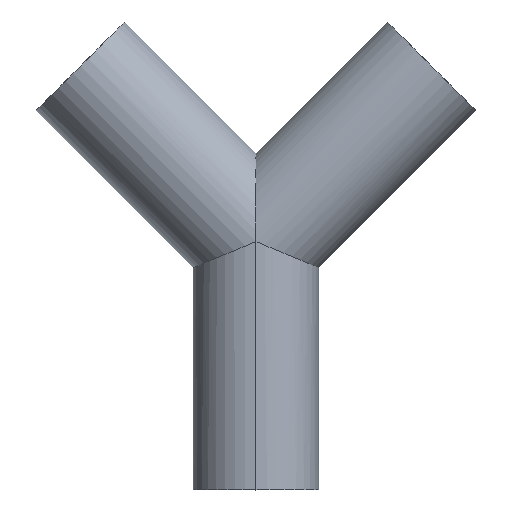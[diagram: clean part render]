
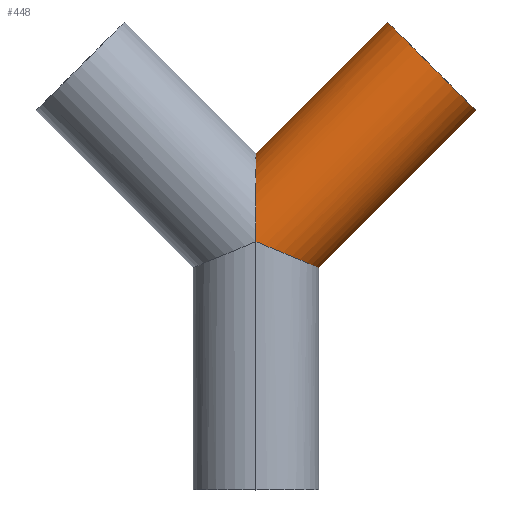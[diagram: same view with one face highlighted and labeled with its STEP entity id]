
A CAD part, top view. The second image highlights one B-rep face of the part: STEP entity #448.
In plain terms, the highlighted cylindrical face has radius 76.2 mm (diameter 152.4 mm), a partial arc.
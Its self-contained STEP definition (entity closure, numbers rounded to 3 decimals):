
#9 = CARTESIAN_POINT ( 'NONE',  ( 76.2, -31.563, 44.637 ) ) ;
#13 = CARTESIAN_POINT ( 'NONE',  ( 0., 0., 76.2 ) ) ;
#21 = CARTESIAN_POINT ( 'NONE',  ( 0., 107.763, 0. ) ) ;
#52 = VERTEX_POINT ( 'NONE', #79 ) ;
#55 = DIRECTION ( 'NONE',  ( 0.707, 0.707, 0. ) ) ;
#66 = EDGE_CURVE ( 'NONE', #206, #421, #152, .T. ) ;
#76 = CIRCLE ( 'NONE', #188, 76.2 ) ;
#79 = CARTESIAN_POINT ( 'NONE',  ( 76.2, -31.563, 0. ) ) ;
#83 = DIRECTION ( 'NONE',  ( 0.707, 0.707, 0. ) ) ;
#111 = CARTESIAN_POINT ( 'NONE',  ( 0., 107.763, 0. ) ) ;
#114 = CARTESIAN_POINT ( 'NONE',  ( 0., 0., 76.2 ) ) ;
#123 = CARTESIAN_POINT ( 'NONE',  ( 0., 0., 76.2 ) ) ;
#126 = CARTESIAN_POINT ( 'NONE',  ( -206.282, -98.518, 0. ) ) ;
#133 = EDGE_LOOP ( 'NONE', ( #334, #266, #213, #240, #168 ) ) ;
#152 =( BOUNDED_CURVE ( )  B_SPLINE_CURVE ( 3, ( #111, #381, #154, #114 ),
 .UNSPECIFIED., .F., .F. ) 
 B_SPLINE_CURVE_WITH_KNOTS ( ( 4, 4 ),
 ( 0., 1.571 ),
 .UNSPECIFIED. ) 
 CURVE ( )  GEOMETRIC_REPRESENTATION_ITEM ( )  RATIONAL_B_SPLINE_CURVE ( ( 1., 0.805, 0.805, 1. ) ) 
 REPRESENTATION_ITEM ( '' )  );
#154 = CARTESIAN_POINT ( 'NONE',  ( 0., 63.126, 76.2 ) ) ;
#157 = CARTESIAN_POINT ( 'NONE',  ( -152.4, -152.4, 0. ) ) ;
#165 = LINE ( 'NONE', #332, #285 ) ;
#168 = ORIENTED_EDGE ( 'NONE', *, *, #66, .T. ) ;
#188 = AXIS2_PLACEMENT_3D ( 'NONE', #440, #199, #477 ) ;
#196 = CARTESIAN_POINT ( 'NONE',  ( 76.2, -31.563, 0. ) ) ;
#199 = DIRECTION ( 'NONE',  ( -0.707, -0.707, 0. ) ) ;
#206 = VERTEX_POINT ( 'NONE', #21 ) ;
#213 = ORIENTED_EDGE ( 'NONE', *, *, #308, .T. ) ;
#235 = AXIS2_PLACEMENT_3D ( 'NONE', #157, #359, #472 ) ;
#240 = ORIENTED_EDGE ( 'NONE', *, *, #459, .F. ) ;
#242 = CARTESIAN_POINT ( 'NONE',  ( 44.637, -18.489, 76.2 ) ) ;
#245 = VECTOR ( 'NONE', #83, 1000. ) ;
#250 = FACE_OUTER_BOUND ( 'NONE', #133, .T. ) ;
#266 = ORIENTED_EDGE ( 'NONE', *, *, #379, .T. ) ;
#282 = CARTESIAN_POINT ( 'NONE',  ( 267.569, 159.806, 0. ) ) ;
#285 = VECTOR ( 'NONE', #55, 1000. ) ;
#307 =( BOUNDED_CURVE ( )  B_SPLINE_CURVE ( 3, ( #196, #9, #242, #13 ),
 .UNSPECIFIED., .F., .T. ) 
 B_SPLINE_CURVE_WITH_KNOTS ( ( 4, 4 ),
 ( 3.142, 4.712 ),
 .UNSPECIFIED. ) 
 CURVE ( )  GEOMETRIC_REPRESENTATION_ITEM ( )  RATIONAL_B_SPLINE_CURVE ( ( 1., 0.805, 0.805, 1. ) ) 
 REPRESENTATION_ITEM ( '' )  );
#308 = EDGE_CURVE ( 'NONE', #327, #428, #76, .T. ) ;
#327 = VERTEX_POINT ( 'NONE', #282 ) ;
#332 = CARTESIAN_POINT ( 'NONE',  ( -98.518, -206.282, 0. ) ) ;
#334 = ORIENTED_EDGE ( 'NONE', *, *, #442, .F. ) ;
#348 = CYLINDRICAL_SURFACE ( 'NONE', #235, 76.2 ) ;
#359 = DIRECTION ( 'NONE',  ( 0.707, 0.707, 0. ) ) ;
#379 = EDGE_CURVE ( 'NONE', #52, #327, #165, .T. ) ;
#381 = CARTESIAN_POINT ( 'NONE',  ( 0., 107.763, 44.637 ) ) ;
#421 = VERTEX_POINT ( 'NONE', #123 ) ;
#428 = VERTEX_POINT ( 'NONE', #431 ) ;
#431 = CARTESIAN_POINT ( 'NONE',  ( 159.806, 267.569, 0. ) ) ;
#440 = CARTESIAN_POINT ( 'NONE',  ( 213.688, 213.688, 0. ) ) ;
#442 = EDGE_CURVE ( 'NONE', #52, #421, #307, .T. ) ;
#446 = LINE ( 'NONE', #126, #245 ) ;
#448 = ADVANCED_FACE ( 'NONE', ( #250 ), #348, .T. ) ;
#459 = EDGE_CURVE ( 'NONE', #206, #428, #446, .T. ) ;
#472 = DIRECTION ( 'NONE',  ( -0.707, 0.707, 0. ) ) ;
#477 = DIRECTION ( 'NONE',  ( -0.707, 0.707, 0. ) ) ;
